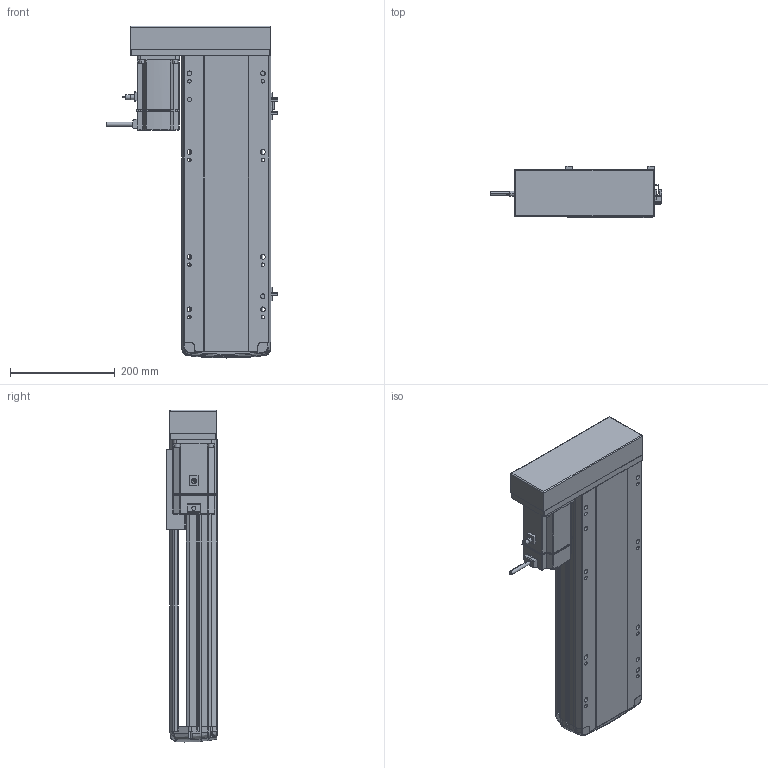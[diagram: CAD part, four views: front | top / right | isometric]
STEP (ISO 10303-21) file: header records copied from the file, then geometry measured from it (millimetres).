
FILE_DESCRIPTION (( 'STEP AP214' ), '1' );
FILE_NAME ('RTH17-XX-350-R-M75-C4.STEP', '2025-10-24T10:14:47', ( '' ), ( '' ), 'SwSTEP 2.0', 'SolidWorks 2018', '' );
FILE_SCHEMA (( 'AUTOMOTIVE_DESIGN' ));
Length unit declared in the file: millimetre
Products named in the file (10): N_OMRON EE-SX672 換覜ん^RTH17-XX-XX-R-M75-C4ㄗ源最宒ㄘ; N_RTH17-M-011底座^RTH17-XX-XX-R-M75-C4（方程式）; N_RTH17-M-007上盖^RTH17-XX-XX-R-M75-C4（方程式）; N_RTH-L-012 感应片(外置)^RTH17-XX-XX-R-M75-C4（方程式）; N_M75^RTH17-XX-XX-R-M75-C4（方程式）; N_RTH17-L-018盖子^RTH17-XX-XX-R-M75-C4（方程式）; RTH17-XX-350-R-M75-C4; N_RTH17-GY-001P^RTH17-XX-XX-R-M75-C4（方程式）; N_RTH17-L-008-P75电机安装板左转折^RTH17-XX-XX-R-M75-C4（方程式）; N_RTH17-E-004丝杆螺母连接座^RTH17-XX-XX-R-M75-C4（方程式）
Assembly tree (11 placements, depth 2):
  RTH17-XX-350-R-M75-C4
    N_RTH17-M-011底座^RTH17-XX-XX-R-M75-C4（方程式）
    N_RTH17-M-007上盖^RTH17-XX-XX-R-M75-C4（方程式）
    N_M75^RTH17-XX-XX-R-M75-C4（方程式）
    N_OMRON EE-SX672 換覜ん^RTH17-XX-XX-R-M75-C4ㄗ源最宒ㄘ  x3
    N_RTH-L-012 感应片(外置)^RTH17-XX-XX-R-M75-C4（方程式）
    N_RTH17-L-008-P75电机安装板左转折^RTH17-XX-XX-R-M75-C4（方程式）
    N_RTH17-L-018盖子^RTH17-XX-XX-R-M75-C4（方程式）
    N_RTH17-E-004丝杆螺母连接座^RTH17-XX-XX-R-M75-C4（方程式）
    N_RTH17-GY-001P^RTH17-XX-XX-R-M75-C4（方程式）
Bounding box: 326.2 x 97 x 633.07 mm (x, y, z)
Volume: 6752936.4 mm3; surface area: 850162.8 mm2
Topology: 13 solids, 15 shells, 1725 faces, 4727 edges, 3058 vertices
Faces by surface type: plane 829, cylinder 482, bspline 377, cone 28, torus 9
Entity records: 49821 total; most frequent: CARTESIAN_POINT 19987, ORIENTED_EDGE 6478, DIRECTION 5383, EDGE_CURVE 3243, VERTEX_POINT 2094, AXIS2_PLACEMENT_3D 1801, LINE 1781, VECTOR 1781
